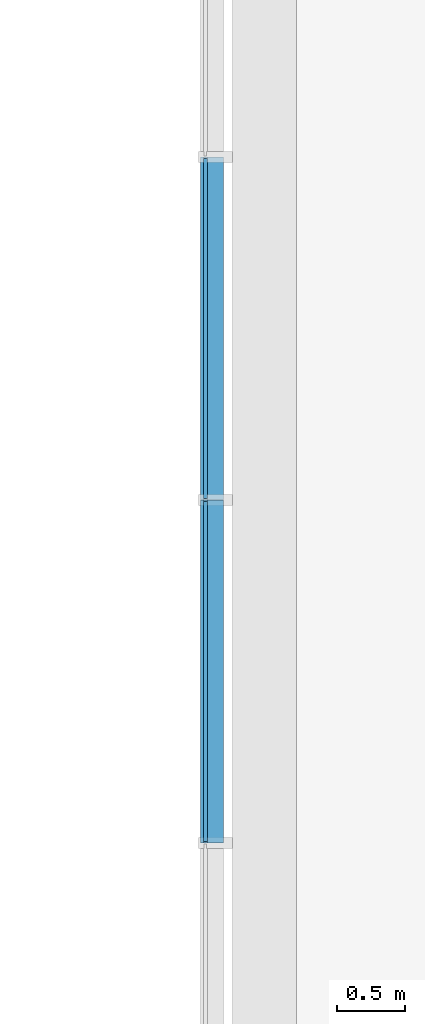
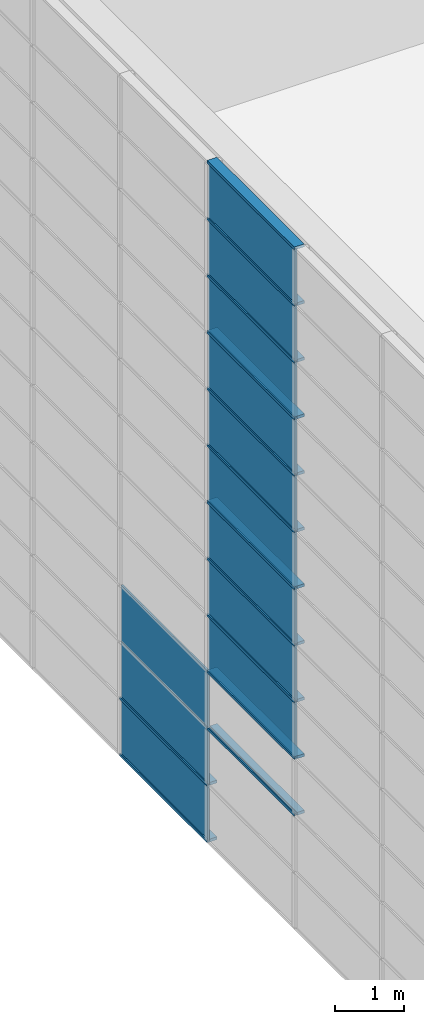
# One storey, part 33 of 105: 28 building element parts, 4 elements without a shape of their own.
"""IFC4 building model written with IfcOpenShell, lengths in millimetres."""

from ifc_helpers import new_model, entity, si_unit, converted_unit, derived_unit, direction, frame, origin_with_axes, place, context, subcontext, project, spatial, triangles, material, element, aggregate, save


model = new_model("IFC4")

# Units and contexts
model_context = context("Model", 3, precision=1e-05, world=origin_with_axes(), true_north=direction((0.0, 1.0)))
body_context = subcontext(model_context, "Body", "Model", "MODEL_VIEW")
ifc_project = project(units=[si_unit("LENGTHUNIT", "METRE", prefix="MILLI"), si_unit("AREAUNIT", "SQUARE_METRE"), si_unit("VOLUMEUNIT", "CUBIC_METRE"), converted_unit("PLANEANGLEUNIT", "DEGREE", entity("IfcLengthMeasure", 0.017453), si_unit("PLANEANGLEUNIT", "RADIAN"), dimensions=[0, 0, 0, 0, 0, 0, 0]), si_unit("SOLIDANGLEUNIT", "STERADIAN"), si_unit("MASSUNIT", "GRAM"), si_unit("TIMEUNIT", "SECOND"), si_unit("THERMODYNAMICTEMPERATUREUNIT", "DEGREE_CELSIUS"), si_unit("LUMINOUSINTENSITYUNIT", "LUMEN"), si_unit("POWERUNIT", "WATT"), derived_unit("THERMALTRANSMITTANCEUNIT", [(si_unit("POWERUNIT", "WATT"), 1), (si_unit("THERMODYNAMICTEMPERATUREUNIT", "KELVIN"), -1), (si_unit("AREAUNIT", "SQUARE_METRE"), -1)])], contexts=[model_context])

# Site, building, storey
site_placement = place(None, origin_with_axes())
site = spatial("IfcSite", under=ifc_project, at=site_placement, Name="Default Site", CompositionType="ELEMENT")
building_placement = place(site_placement, origin_with_axes())
building = spatial("IfcBuilding", under=site, at=building_placement, Name="Default Building", CompositionType="ELEMENT")
storey_placement = place(building_placement, origin_with_axes())
storey = spatial("IfcBuildingStorey", under=building, at=storey_placement, Name="OG - Story", CompositionType="ELEMENT", Elevation=0.0)

# Curtain wall, building element parts
curtain_wall_1_placement = place(storey_placement, origin_with_axes())
curtain_wall_1 = element("IfcCurtainWall", 1, at=curtain_wall_1_placement, inside=storey, Name="Fassade-003", PredefinedType="NOTDEFINED")
ifc_material_1 = material(Name="Normalglas")
building_element_part_1_placement = place(curtain_wall_1_placement, frame((31551.391327, -51326.104944, 0.0), z_axis=(0.0, 0.0, 1.0), x_axis=(1.0, 0.0, 0.0)))
building_element_part_1 = element("IfcBuildingElementPart", 2, at=building_element_part_1_placement, material=ifc_material_1, Name="Normalglas", PredefinedType="NOTDEFINED", context=body_context, shape_type="Tessellation", body=[
    triangles([(15.0, 36621.579, 995.0), (-14.999, 36621.579, 995.0), (-14.999, 34115.263, 995.0), (15.0, 34115.263, 995.0), (15.0, 36621.579, 5.0), (-14.999, 36621.579, 5.0), (-14.999, 34115.263, 5.0), (15.0, 34115.263, 5.0)], [[1, 2, 3], [1, 3, 4], [5, 6, 2], [5, 2, 1], [2, 6, 7], [2, 7, 3], [4, 3, 7], [4, 7, 8], [1, 4, 8], [1, 8, 5], [8, 7, 6], [8, 6, 5]], closed=False),
])
building_element_part_2_placement = place(curtain_wall_1_placement, frame((31551.391327, -51326.104944, 0.0), z_axis=(0.0, 0.0, 1.0), x_axis=(1.0, 0.0, 0.0)))
building_element_part_2 = element("IfcBuildingElementPart", 3, at=building_element_part_2_placement, material=ifc_material_1, Name="Normalglas", PredefinedType="NOTDEFINED", context=body_context, shape_type="Tessellation", body=[
    triangles([(15.0, 36621.579, 1995.0), (-14.999, 36621.579, 1995.0), (-14.999, 34115.263, 1995.0), (15.0, 34115.263, 1995.0), (15.0, 36621.579, 1005.0), (-14.999, 36621.579, 1005.0), (-14.999, 34115.263, 1005.0), (15.0, 34115.263, 1005.0)], [[1, 2, 3], [1, 3, 4], [5, 6, 2], [5, 2, 1], [2, 6, 7], [2, 7, 3], [4, 3, 7], [4, 7, 8], [1, 4, 8], [1, 8, 5], [8, 7, 6], [8, 6, 5]], closed=False),
])
building_element_part_3_placement = place(curtain_wall_1_placement, frame((31551.391327, -51326.104944, 0.0), z_axis=(0.0, 0.0, 1.0), x_axis=(1.0, 0.0, 0.0)))
building_element_part_3 = element("IfcBuildingElementPart", 4, at=building_element_part_3_placement, material=ifc_material_1, Name="Normalglas", PredefinedType="NOTDEFINED", context=body_context, shape_type="Tessellation", body=[
    triangles([(15.0, 36621.579, 2995.0), (-14.999, 36621.579, 2995.0), (-14.999, 34115.263, 2995.0), (15.0, 34115.263, 2995.0), (15.0, 36621.579, 2005.0), (-14.999, 36621.579, 2005.0), (-14.999, 34115.263, 2005.0), (15.0, 34115.263, 2005.0)], [[1, 2, 3], [1, 3, 4], [5, 6, 2], [5, 2, 1], [2, 6, 7], [2, 7, 3], [4, 3, 7], [4, 7, 8], [1, 4, 8], [1, 8, 5], [8, 7, 6], [8, 6, 5]], closed=False),
])
ifc_material_2 = material(Name="Blech")
building_element_part_4_placement = place(curtain_wall_1_placement, frame((31551.391327, -51326.104944, 0.0), z_axis=(0.0, 0.0, 1.0), x_axis=(1.0, 0.0, 0.0)))
building_element_part_4 = element("IfcBuildingElementPart", 5, at=building_element_part_4_placement, material=ifc_material_2, Name="Blech", PredefinedType="NOTDEFINED", context=body_context, shape_type="Tessellation", body=[
    triangles([(15.0, 36631.579, 25.0), (133.0, 36631.579, 25.0), (15.0, 36631.579, 5.0), (133.0, 36631.579, -24.999), (-14.999, 36631.579, 5.0), (-34.999, 36631.579, -24.999), (-34.999, 36631.579, 25.0), (-14.999, 36631.579, 25.0), (15.0, 34105.263, 5.0), (15.0, 34105.263, 25.0), (133.0, 34105.263, 25.0), (133.0, 34105.263, -24.999), (-34.999, 34105.263, -24.999), (-34.999, 34105.263, 25.0), (-14.999, 34105.263, 25.0), (-14.999, 34105.263, 5.0)], [[1, 2, 3], [3, 2, 4], [3, 4, 5], [5, 4, 6], [5, 6, 7], [5, 7, 8], [3, 9, 10], [3, 10, 1], [10, 11, 2], [10, 2, 1], [11, 12, 4], [11, 4, 2], [12, 13, 6], [12, 6, 4], [13, 14, 7], [13, 7, 6], [8, 7, 14], [8, 14, 15], [15, 16, 5], [15, 5, 8], [5, 16, 9], [5, 9, 3], [16, 9, 12], [16, 12, 13], [16, 13, 14], [16, 14, 15], [11, 12, 9], [11, 9, 10]], closed=False),
])
building_element_part_5_placement = place(curtain_wall_1_placement, frame((31551.391327, -51326.104944, 0.0), z_axis=(0.0, 0.0, 1.0), x_axis=(1.0, 0.0, 0.0)))
building_element_part_5 = element("IfcBuildingElementPart", 6, at=building_element_part_5_placement, material=ifc_material_2, Name="Blech", PredefinedType="NOTDEFINED", context=body_context, shape_type="Tessellation", body=[
    triangles([(-14.999, 36631.579, 1025.0), (-34.999, 36631.579, 1025.0), (-14.999, 36631.579, 1005.0), (-14.999, 36631.579, 995.0), (15.0, 36631.579, 1005.0), (133.0, 36631.579, 1025.0), (15.0, 36631.579, 1025.0), (-34.999, 36631.579, 975.0), (-14.999, 36631.579, 975.0), (15.0, 36631.579, 995.0), (15.0, 36631.579, 975.0), (133.0, 36631.579, 975.0), (15.0, 34105.263, 995.0), (-14.999, 34105.263, 995.0), (-14.999, 34105.263, 975.0), (-34.999, 34105.263, 975.0), (-34.999, 34105.263, 1025.0), (-14.999, 34105.263, 1025.0), (-14.999, 34105.263, 1005.0), (15.0, 34105.263, 1005.0), (15.0, 34105.263, 1025.0), (133.0, 34105.263, 1025.0), (133.0, 34105.263, 975.0), (15.0, 34105.263, 975.0)], [[1, 2, 3], [3, 2, 4], [3, 4, 5], [5, 4, 6], [5, 6, 7], [8, 9, 4], [8, 4, 2], [6, 4, 10], [6, 10, 11], [6, 11, 12], [10, 13, 14], [10, 14, 4], [4, 14, 15], [4, 15, 9], [15, 16, 8], [15, 8, 9], [8, 16, 17], [8, 17, 2], [18, 1, 2], [18, 2, 17], [1, 18, 19], [1, 19, 3], [5, 3, 19], [5, 19, 20], [7, 5, 20], [7, 20, 21], [7, 21, 22], [7, 22, 6], [6, 22, 23], [6, 23, 12], [11, 12, 23], [11, 23, 24], [11, 24, 13], [11, 13, 10], [21, 22, 20], [20, 22, 13], [20, 13, 19], [19, 13, 14], [19, 14, 17], [17, 14, 15], [17, 15, 16], [23, 24, 13], [23, 13, 22], [19, 17, 18]], closed=False),
])
building_element_part_6_placement = place(curtain_wall_1_placement, frame((31551.391327, -51326.104944, 0.0), z_axis=(0.0, 0.0, 1.0), x_axis=(1.0, 0.0, 0.0)))
building_element_part_6 = element("IfcBuildingElementPart", 7, at=building_element_part_6_placement, material=ifc_material_2, Name="Blech", PredefinedType="NOTDEFINED", context=body_context, shape_type="Tessellation", body=[
    triangles([(-14.999, 34105.263, 2025.0), (-34.999, 34105.263, 2025.0), (-14.999, 34105.263, 2005.0), (-14.999, 34105.263, 1995.0), (15.0, 34105.263, 2005.0), (133.0, 34105.263, 2025.0), (15.0, 34105.263, 2025.0), (-34.999, 34105.263, 1975.0), (-14.999, 34105.263, 1975.0), (15.0, 34105.263, 1995.0), (15.0, 34105.263, 1975.0), (133.0, 34105.263, 1975.0), (15.0, 31578.947, 1995.0), (-14.999, 31578.947, 1995.0), (-14.999, 31578.947, 1975.0), (-34.999, 31578.947, 1975.0), (-34.999, 31578.947, 2025.0), (-14.999, 31578.947, 2025.0), (-14.999, 31578.947, 2005.0), (15.0, 31578.947, 2005.0), (15.0, 31578.947, 2025.0), (133.0, 31578.947, 2025.0), (133.0, 31578.947, 1975.0), (15.0, 31578.947, 1975.0)], [[1, 2, 3], [3, 2, 4], [3, 4, 5], [5, 4, 6], [5, 6, 7], [8, 9, 4], [8, 4, 2], [6, 4, 10], [6, 10, 11], [6, 11, 12], [10, 13, 14], [10, 14, 4], [4, 14, 15], [4, 15, 9], [15, 16, 8], [15, 8, 9], [8, 16, 17], [8, 17, 2], [18, 1, 2], [18, 2, 17], [1, 18, 19], [1, 19, 3], [5, 3, 19], [5, 19, 20], [7, 5, 20], [7, 20, 21], [7, 21, 22], [7, 22, 6], [6, 22, 23], [6, 23, 12], [11, 12, 23], [11, 23, 24], [11, 24, 13], [11, 13, 10], [21, 22, 20], [20, 22, 13], [20, 13, 19], [19, 13, 14], [19, 14, 17], [17, 14, 15], [17, 15, 16], [23, 24, 13], [23, 13, 22], [19, 17, 18]], closed=False),
])
building_element_part_7_placement = place(curtain_wall_1_placement, frame((31551.391327, -51326.104944, 0.0), z_axis=(0.0, 0.0, 1.0), x_axis=(1.0, 0.0, 0.0)))
building_element_part_7 = element("IfcBuildingElementPart", 8, at=building_element_part_7_placement, material=ifc_material_2, Name="Blech", PredefinedType="NOTDEFINED", context=body_context, shape_type="Tessellation", body=[
    triangles([(-14.999, 34105.263, 2995.0), (15.0, 34105.263, 2995.0), (133.0, 34105.263, 3025.0), (-34.999, 34105.263, 3025.0), (-34.999, 34105.263, 2975.0), (-14.999, 34105.263, 2975.0), (15.0, 34105.263, 2975.0), (133.0, 34105.263, 2975.0), (15.0, 31578.947, 2995.0), (-14.999, 31578.947, 2995.0), (-14.999, 31578.947, 2975.0), (-34.999, 31578.947, 2975.0), (-34.999, 31578.947, 3025.0), (133.0, 31578.947, 3025.0), (133.0, 31578.947, 2975.0), (15.0, 31578.947, 2975.0)], [[1, 2, 3], [1, 3, 4], [1, 4, 5], [1, 5, 6], [7, 8, 3], [7, 3, 2], [1, 2, 9], [1, 9, 10], [11, 6, 1], [11, 1, 10], [6, 11, 12], [6, 12, 5], [13, 4, 5], [13, 5, 12], [14, 3, 4], [14, 4, 13], [15, 8, 3], [15, 3, 14], [16, 7, 8], [16, 8, 15], [2, 7, 16], [2, 16, 9], [10, 9, 14], [10, 14, 13], [10, 13, 12], [10, 12, 11], [16, 15, 14], [16, 14, 9]], closed=False),
])
aggregate(curtain_wall_1, [building_element_part_1, building_element_part_2, building_element_part_3, building_element_part_4, building_element_part_5, building_element_part_6, building_element_part_7])

curtain_wall_2_placement = place(storey_placement, origin_with_axes())
curtain_wall_2 = element("IfcCurtainWall", 9, at=curtain_wall_2_placement, inside=storey, Name="Fassade-003", PredefinedType="NOTDEFINED")
building_element_part_8_placement = place(curtain_wall_2_placement, frame((31551.391327, -51326.104944, 3000.0), z_axis=(0.0, 0.0, 1.0), x_axis=(1.0, 0.0, 0.0)))
building_element_part_8 = element("IfcBuildingElementPart", 10, at=building_element_part_8_placement, material=ifc_material_1, Name="Normalglas", PredefinedType="NOTDEFINED", context=body_context, shape_type="Tessellation", body=[
    triangles([(15.0, 34095.263, 995.0), (-14.999, 34095.263, 995.0), (-14.999, 31588.947, 995.0), (15.0, 31588.947, 995.0), (15.0, 34095.263, 5.0), (-14.999, 34095.263, 5.0), (-14.999, 31588.947, 5.0), (15.0, 31588.947, 5.0)], [[1, 2, 3], [1, 3, 4], [5, 6, 2], [5, 2, 1], [2, 6, 7], [2, 7, 3], [4, 3, 7], [4, 7, 8], [1, 4, 8], [1, 8, 5], [8, 7, 6], [8, 6, 5]], closed=False),
])
building_element_part_9_placement = place(curtain_wall_2_placement, frame((31551.391327, -51326.104944, 3000.0), z_axis=(0.0, 0.0, 1.0), x_axis=(1.0, 0.0, 0.0)))
building_element_part_9 = element("IfcBuildingElementPart", 11, at=building_element_part_9_placement, material=ifc_material_1, Name="Normalglas", PredefinedType="NOTDEFINED", context=body_context, shape_type="Tessellation", body=[
    triangles([(15.0, 34095.263, 1995.0), (-14.999, 34095.263, 1995.0), (-14.999, 31588.947, 1995.0), (15.0, 31588.947, 1995.0), (15.0, 34095.263, 1005.0), (-14.999, 34095.263, 1005.0), (-14.999, 31588.947, 1005.0), (15.0, 31588.947, 1005.0)], [[1, 2, 3], [1, 3, 4], [5, 6, 2], [5, 2, 1], [2, 6, 7], [2, 7, 3], [4, 3, 7], [4, 7, 8], [1, 4, 8], [1, 8, 5], [8, 7, 6], [8, 6, 5]], closed=False),
])
building_element_part_10_placement = place(curtain_wall_2_placement, frame((31551.391327, -51326.104944, 3000.0), z_axis=(0.0, 0.0, 1.0), x_axis=(1.0, 0.0, 0.0)))
building_element_part_10 = element("IfcBuildingElementPart", 12, at=building_element_part_10_placement, material=ifc_material_1, Name="Normalglas", PredefinedType="NOTDEFINED", context=body_context, shape_type="Tessellation", body=[
    triangles([(15.0, 34095.263, 2995.0), (-14.999, 34095.263, 2995.0), (-14.999, 31588.947, 2995.0), (15.0, 31588.947, 2995.0), (15.0, 34095.263, 2005.0), (-14.999, 34095.263, 2005.0), (-14.999, 31588.947, 2005.0), (15.0, 31588.947, 2005.0)], [[1, 2, 3], [1, 3, 4], [5, 6, 2], [5, 2, 1], [2, 6, 7], [2, 7, 3], [4, 3, 7], [4, 7, 8], [1, 4, 8], [1, 8, 5], [8, 7, 6], [8, 6, 5]], closed=False),
])
building_element_part_11_placement = place(curtain_wall_2_placement, frame((31551.391327, -51326.104944, 3000.0), z_axis=(0.0, 0.0, 1.0), x_axis=(1.0, 0.0, 0.0)))
building_element_part_11 = element("IfcBuildingElementPart", 13, at=building_element_part_11_placement, material=ifc_material_2, Name="Blech", PredefinedType="NOTDEFINED", context=body_context, shape_type="Tessellation", body=[
    triangles([(15.0, 34105.263, 25.0), (133.0, 34105.263, 25.0), (15.0, 34105.263, 5.0), (133.0, 34105.263, -24.999), (-14.999, 34105.263, 5.0), (-34.999, 34105.263, -24.999), (-34.999, 34105.263, 25.0), (-14.999, 34105.263, 25.0), (15.0, 31578.947, 5.0), (15.0, 31578.947, 25.0), (133.0, 31578.947, 25.0), (133.0, 31578.947, -24.999), (-34.999, 31578.947, -24.999), (-34.999, 31578.947, 25.0), (-14.999, 31578.947, 25.0), (-14.999, 31578.947, 5.0)], [[1, 2, 3], [3, 2, 4], [3, 4, 5], [5, 4, 6], [5, 6, 7], [5, 7, 8], [3, 9, 10], [3, 10, 1], [10, 11, 2], [10, 2, 1], [11, 12, 4], [11, 4, 2], [12, 13, 6], [12, 6, 4], [13, 14, 7], [13, 7, 6], [8, 7, 14], [8, 14, 15], [15, 16, 5], [15, 5, 8], [5, 16, 9], [5, 9, 3], [16, 9, 12], [16, 12, 13], [16, 13, 14], [16, 14, 15], [11, 12, 9], [11, 9, 10]], closed=False),
])
building_element_part_12_placement = place(curtain_wall_2_placement, frame((31551.391327, -51326.104944, 3000.0), z_axis=(0.0, 0.0, 1.0), x_axis=(1.0, 0.0, 0.0)))
building_element_part_12 = element("IfcBuildingElementPart", 14, at=building_element_part_12_placement, material=ifc_material_2, Name="Blech", PredefinedType="NOTDEFINED", context=body_context, shape_type="Tessellation", body=[
    triangles([(-14.999, 34105.263, 1025.0), (-34.999, 34105.263, 1025.0), (-14.999, 34105.263, 1005.0), (-14.999, 34105.263, 995.0), (15.0, 34105.263, 1005.0), (133.0, 34105.263, 1025.0), (15.0, 34105.263, 1025.0), (-34.999, 34105.263, 975.0), (-14.999, 34105.263, 975.0), (15.0, 34105.263, 995.0), (15.0, 34105.263, 975.0), (133.0, 34105.263, 975.0), (15.0, 31578.947, 995.0), (-14.999, 31578.947, 995.0), (-14.999, 31578.947, 975.0), (-34.999, 31578.947, 975.0), (-34.999, 31578.947, 1025.0), (-14.999, 31578.947, 1025.0), (-14.999, 31578.947, 1005.0), (15.0, 31578.947, 1005.0), (15.0, 31578.947, 1025.0), (133.0, 31578.947, 1025.0), (133.0, 31578.947, 975.0), (15.0, 31578.947, 975.0)], [[1, 2, 3], [3, 2, 4], [3, 4, 5], [5, 4, 6], [5, 6, 7], [8, 9, 4], [8, 4, 2], [6, 4, 10], [6, 10, 11], [6, 11, 12], [10, 13, 14], [10, 14, 4], [4, 14, 15], [4, 15, 9], [15, 16, 8], [15, 8, 9], [8, 16, 17], [8, 17, 2], [18, 1, 2], [18, 2, 17], [1, 18, 19], [1, 19, 3], [5, 3, 19], [5, 19, 20], [7, 5, 20], [7, 20, 21], [7, 21, 22], [7, 22, 6], [6, 22, 23], [6, 23, 12], [11, 12, 23], [11, 23, 24], [11, 24, 13], [11, 13, 10], [21, 22, 20], [20, 22, 13], [20, 13, 19], [19, 13, 14], [19, 14, 17], [17, 14, 15], [17, 15, 16], [23, 24, 13], [23, 13, 22], [19, 17, 18]], closed=False),
])
building_element_part_13_placement = place(curtain_wall_2_placement, frame((31551.391327, -51326.104944, 3000.0), z_axis=(0.0, 0.0, 1.0), x_axis=(1.0, 0.0, 0.0)))
building_element_part_13 = element("IfcBuildingElementPart", 15, at=building_element_part_13_placement, material=ifc_material_2, Name="Blech", PredefinedType="NOTDEFINED", context=body_context, shape_type="Tessellation", body=[
    triangles([(-14.999, 34105.263, 2025.0), (-34.999, 34105.263, 2025.0), (-14.999, 34105.263, 2005.0), (-14.999, 34105.263, 1995.0), (15.0, 34105.263, 2005.0), (133.0, 34105.263, 2025.0), (15.0, 34105.263, 2025.0), (-34.999, 34105.263, 1975.0), (-14.999, 34105.263, 1975.0), (15.0, 34105.263, 1995.0), (15.0, 34105.263, 1975.0), (133.0, 34105.263, 1975.0), (15.0, 31578.947, 1995.0), (-14.999, 31578.947, 1995.0), (-14.999, 31578.947, 1975.0), (-34.999, 31578.947, 1975.0), (-34.999, 31578.947, 2025.0), (-14.999, 31578.947, 2025.0), (-14.999, 31578.947, 2005.0), (15.0, 31578.947, 2005.0), (15.0, 31578.947, 2025.0), (133.0, 31578.947, 2025.0), (133.0, 31578.947, 1975.0), (15.0, 31578.947, 1975.0)], [[1, 2, 3], [3, 2, 4], [3, 4, 5], [5, 4, 6], [5, 6, 7], [8, 9, 4], [8, 4, 2], [6, 4, 10], [6, 10, 11], [6, 11, 12], [10, 13, 14], [10, 14, 4], [4, 14, 15], [4, 15, 9], [15, 16, 8], [15, 8, 9], [8, 16, 17], [8, 17, 2], [18, 1, 2], [18, 2, 17], [1, 18, 19], [1, 19, 3], [5, 3, 19], [5, 19, 20], [7, 5, 20], [7, 20, 21], [7, 21, 22], [7, 22, 6], [6, 22, 23], [6, 23, 12], [11, 12, 23], [11, 23, 24], [11, 24, 13], [11, 13, 10], [21, 22, 20], [20, 22, 13], [20, 13, 19], [19, 13, 14], [19, 14, 17], [17, 14, 15], [17, 15, 16], [23, 24, 13], [23, 13, 22], [19, 17, 18]], closed=False),
])
building_element_part_14_placement = place(curtain_wall_2_placement, frame((31551.391327, -51326.104944, 3000.0), z_axis=(0.0, 0.0, 1.0), x_axis=(1.0, 0.0, 0.0)))
building_element_part_14 = element("IfcBuildingElementPart", 16, at=building_element_part_14_placement, material=ifc_material_2, Name="Blech", PredefinedType="NOTDEFINED", context=body_context, shape_type="Tessellation", body=[
    triangles([(-14.999, 34105.263, 2995.0), (15.0, 34105.263, 2995.0), (133.0, 34105.263, 3025.0), (-34.999, 34105.263, 3025.0), (-34.999, 34105.263, 2975.0), (-14.999, 34105.263, 2975.0), (15.0, 34105.263, 2975.0), (133.0, 34105.263, 2975.0), (15.0, 31578.947, 2995.0), (-14.999, 31578.947, 2995.0), (-14.999, 31578.947, 2975.0), (-34.999, 31578.947, 2975.0), (-34.999, 31578.947, 3025.0), (133.0, 31578.947, 3025.0), (133.0, 31578.947, 2975.0), (15.0, 31578.947, 2975.0)], [[1, 2, 3], [1, 3, 4], [1, 4, 5], [1, 5, 6], [7, 8, 3], [7, 3, 2], [1, 2, 9], [1, 9, 10], [11, 6, 1], [11, 1, 10], [6, 11, 12], [6, 12, 5], [13, 4, 5], [13, 5, 12], [14, 3, 4], [14, 4, 13], [15, 8, 3], [15, 3, 14], [16, 7, 8], [16, 8, 15], [2, 7, 16], [2, 16, 9], [10, 9, 14], [10, 14, 13], [10, 13, 12], [10, 12, 11], [16, 15, 14], [16, 14, 9]], closed=False),
])
aggregate(curtain_wall_2, [building_element_part_8, building_element_part_9, building_element_part_10, building_element_part_11, building_element_part_12, building_element_part_13, building_element_part_14])

curtain_wall_3_placement = place(storey_placement, origin_with_axes())
curtain_wall_3 = element("IfcCurtainWall", 17, at=curtain_wall_3_placement, inside=storey, Name="Fassade-003", PredefinedType="NOTDEFINED")
building_element_part_15_placement = place(curtain_wall_3_placement, frame((31551.391327, -51326.104944, 6000.0), z_axis=(0.0, 0.0, 1.0), x_axis=(1.0, 0.0, 0.0)))
building_element_part_15 = element("IfcBuildingElementPart", 18, at=building_element_part_15_placement, material=ifc_material_1, Name="Normalglas", PredefinedType="NOTDEFINED", context=body_context, shape_type="Tessellation", body=[
    triangles([(15.0, 34095.263, 995.0), (-14.999, 34095.263, 995.0), (-14.999, 31588.947, 995.0), (15.0, 31588.947, 995.0), (15.0, 34095.263, 5.0), (-14.999, 34095.263, 5.0), (-14.999, 31588.947, 5.0), (15.0, 31588.947, 5.0)], [[1, 2, 3], [1, 3, 4], [5, 6, 2], [5, 2, 1], [2, 6, 7], [2, 7, 3], [4, 3, 7], [4, 7, 8], [1, 4, 8], [1, 8, 5], [8, 7, 6], [8, 6, 5]], closed=False),
])
building_element_part_16_placement = place(curtain_wall_3_placement, frame((31551.391327, -51326.104944, 6000.0), z_axis=(0.0, 0.0, 1.0), x_axis=(1.0, 0.0, 0.0)))
building_element_part_16 = element("IfcBuildingElementPart", 19, at=building_element_part_16_placement, material=ifc_material_1, Name="Normalglas", PredefinedType="NOTDEFINED", context=body_context, shape_type="Tessellation", body=[
    triangles([(15.0, 34095.263, 1995.0), (-14.999, 34095.263, 1995.0), (-14.999, 31588.947, 1995.0), (15.0, 31588.947, 1995.0), (15.0, 34095.263, 1005.0), (-14.999, 34095.263, 1005.0), (-14.999, 31588.947, 1005.0), (15.0, 31588.947, 1005.0)], [[1, 2, 3], [1, 3, 4], [5, 6, 2], [5, 2, 1], [2, 6, 7], [2, 7, 3], [4, 3, 7], [4, 7, 8], [1, 4, 8], [1, 8, 5], [8, 7, 6], [8, 6, 5]], closed=False),
])
building_element_part_17_placement = place(curtain_wall_3_placement, frame((31551.391327, -51326.104944, 6000.0), z_axis=(0.0, 0.0, 1.0), x_axis=(1.0, 0.0, 0.0)))
building_element_part_17 = element("IfcBuildingElementPart", 20, at=building_element_part_17_placement, material=ifc_material_1, Name="Normalglas", PredefinedType="NOTDEFINED", context=body_context, shape_type="Tessellation", body=[
    triangles([(15.0, 34095.263, 2995.0), (-14.999, 34095.263, 2995.0), (-14.999, 31588.947, 2995.0), (15.0, 31588.947, 2995.0), (15.0, 34095.263, 2005.0), (-14.999, 34095.263, 2005.0), (-14.999, 31588.947, 2005.0), (15.0, 31588.947, 2005.0)], [[1, 2, 3], [1, 3, 4], [5, 6, 2], [5, 2, 1], [2, 6, 7], [2, 7, 3], [4, 3, 7], [4, 7, 8], [1, 4, 8], [1, 8, 5], [8, 7, 6], [8, 6, 5]], closed=False),
])
building_element_part_18_placement = place(curtain_wall_3_placement, frame((31551.391327, -51326.104944, 6000.0), z_axis=(0.0, 0.0, 1.0), x_axis=(1.0, 0.0, 0.0)))
building_element_part_18 = element("IfcBuildingElementPart", 21, at=building_element_part_18_placement, material=ifc_material_2, Name="Blech", PredefinedType="NOTDEFINED", context=body_context, shape_type="Tessellation", body=[
    triangles([(15.0, 34105.263, 25.0), (133.0, 34105.263, 25.0), (15.0, 34105.263, 5.0), (133.0, 34105.263, -24.999), (-14.999, 34105.263, 5.0), (-34.999, 34105.263, -24.999), (-34.999, 34105.263, 25.0), (-14.999, 34105.263, 25.0), (15.0, 31578.947, 5.0), (15.0, 31578.947, 25.0), (133.0, 31578.947, 25.0), (133.0, 31578.947, -24.999), (-34.999, 31578.947, -24.999), (-34.999, 31578.947, 25.0), (-14.999, 31578.947, 25.0), (-14.999, 31578.947, 5.0)], [[1, 2, 3], [3, 2, 4], [3, 4, 5], [5, 4, 6], [5, 6, 7], [5, 7, 8], [3, 9, 10], [3, 10, 1], [10, 11, 2], [10, 2, 1], [11, 12, 4], [11, 4, 2], [12, 13, 6], [12, 6, 4], [13, 14, 7], [13, 7, 6], [8, 7, 14], [8, 14, 15], [15, 16, 5], [15, 5, 8], [5, 16, 9], [5, 9, 3], [16, 9, 12], [16, 12, 13], [16, 13, 14], [16, 14, 15], [11, 12, 9], [11, 9, 10]], closed=False),
])
building_element_part_19_placement = place(curtain_wall_3_placement, frame((31551.391327, -51326.104944, 6000.0), z_axis=(0.0, 0.0, 1.0), x_axis=(1.0, 0.0, 0.0)))
building_element_part_19 = element("IfcBuildingElementPart", 22, at=building_element_part_19_placement, material=ifc_material_2, Name="Blech", PredefinedType="NOTDEFINED", context=body_context, shape_type="Tessellation", body=[
    triangles([(-14.999, 34105.263, 1025.0), (-34.999, 34105.263, 1025.0), (-14.999, 34105.263, 1005.0), (-14.999, 34105.263, 995.0), (15.0, 34105.263, 1005.0), (133.0, 34105.263, 1025.0), (15.0, 34105.263, 1025.0), (-34.999, 34105.263, 975.0), (-14.999, 34105.263, 975.0), (15.0, 34105.263, 995.0), (15.0, 34105.263, 975.0), (133.0, 34105.263, 975.0), (15.0, 31578.947, 995.0), (-14.999, 31578.947, 995.0), (-14.999, 31578.947, 975.0), (-34.999, 31578.947, 975.0), (-34.999, 31578.947, 1025.0), (-14.999, 31578.947, 1025.0), (-14.999, 31578.947, 1005.0), (15.0, 31578.947, 1005.0), (15.0, 31578.947, 1025.0), (133.0, 31578.947, 1025.0), (133.0, 31578.947, 975.0), (15.0, 31578.947, 975.0)], [[1, 2, 3], [3, 2, 4], [3, 4, 5], [5, 4, 6], [5, 6, 7], [8, 9, 4], [8, 4, 2], [6, 4, 10], [6, 10, 11], [6, 11, 12], [10, 13, 14], [10, 14, 4], [4, 14, 15], [4, 15, 9], [15, 16, 8], [15, 8, 9], [8, 16, 17], [8, 17, 2], [18, 1, 2], [18, 2, 17], [1, 18, 19], [1, 19, 3], [5, 3, 19], [5, 19, 20], [7, 5, 20], [7, 20, 21], [7, 21, 22], [7, 22, 6], [6, 22, 23], [6, 23, 12], [11, 12, 23], [11, 23, 24], [11, 24, 13], [11, 13, 10], [21, 22, 20], [20, 22, 13], [20, 13, 19], [19, 13, 14], [19, 14, 17], [17, 14, 15], [17, 15, 16], [23, 24, 13], [23, 13, 22], [19, 17, 18]], closed=False),
])
building_element_part_20_placement = place(curtain_wall_3_placement, frame((31551.391327, -51326.104944, 6000.0), z_axis=(0.0, 0.0, 1.0), x_axis=(1.0, 0.0, 0.0)))
building_element_part_20 = element("IfcBuildingElementPart", 23, at=building_element_part_20_placement, material=ifc_material_2, Name="Blech", PredefinedType="NOTDEFINED", context=body_context, shape_type="Tessellation", body=[
    triangles([(-14.999, 34105.263, 2025.0), (-34.999, 34105.263, 2025.0), (-14.999, 34105.263, 2005.0), (-14.999, 34105.263, 1995.0), (15.0, 34105.263, 2005.0), (133.0, 34105.263, 2025.0), (15.0, 34105.263, 2025.0), (-34.999, 34105.263, 1975.0), (-14.999, 34105.263, 1975.0), (15.0, 34105.263, 1995.0), (15.0, 34105.263, 1975.0), (133.0, 34105.263, 1975.0), (15.0, 31578.947, 1995.0), (-14.999, 31578.947, 1995.0), (-14.999, 31578.947, 1975.0), (-34.999, 31578.947, 1975.0), (-34.999, 31578.947, 2025.0), (-14.999, 31578.947, 2025.0), (-14.999, 31578.947, 2005.0), (15.0, 31578.947, 2005.0), (15.0, 31578.947, 2025.0), (133.0, 31578.947, 2025.0), (133.0, 31578.947, 1975.0), (15.0, 31578.947, 1975.0)], [[1, 2, 3], [3, 2, 4], [3, 4, 5], [5, 4, 6], [5, 6, 7], [8, 9, 4], [8, 4, 2], [6, 4, 10], [6, 10, 11], [6, 11, 12], [10, 13, 14], [10, 14, 4], [4, 14, 15], [4, 15, 9], [15, 16, 8], [15, 8, 9], [8, 16, 17], [8, 17, 2], [18, 1, 2], [18, 2, 17], [1, 18, 19], [1, 19, 3], [5, 3, 19], [5, 19, 20], [7, 5, 20], [7, 20, 21], [7, 21, 22], [7, 22, 6], [6, 22, 23], [6, 23, 12], [11, 12, 23], [11, 23, 24], [11, 24, 13], [11, 13, 10], [21, 22, 20], [20, 22, 13], [20, 13, 19], [19, 13, 14], [19, 14, 17], [17, 14, 15], [17, 15, 16], [23, 24, 13], [23, 13, 22], [19, 17, 18]], closed=False),
])
building_element_part_21_placement = place(curtain_wall_3_placement, frame((31551.391327, -51326.104944, 6000.0), z_axis=(0.0, 0.0, 1.0), x_axis=(1.0, 0.0, 0.0)))
building_element_part_21 = element("IfcBuildingElementPart", 24, at=building_element_part_21_placement, material=ifc_material_2, Name="Blech", PredefinedType="NOTDEFINED", context=body_context, shape_type="Tessellation", body=[
    triangles([(-14.999, 34105.263, 2995.0), (15.0, 34105.263, 2995.0), (133.0, 34105.263, 3025.0), (-34.999, 34105.263, 3025.0), (-34.999, 34105.263, 2975.0), (-14.999, 34105.263, 2975.0), (15.0, 34105.263, 2975.0), (133.0, 34105.263, 2975.0), (15.0, 31578.947, 2995.0), (-14.999, 31578.947, 2995.0), (-14.999, 31578.947, 2975.0), (-34.999, 31578.947, 2975.0), (-34.999, 31578.947, 3025.0), (133.0, 31578.947, 3025.0), (133.0, 31578.947, 2975.0), (15.0, 31578.947, 2975.0)], [[1, 2, 3], [1, 3, 4], [1, 4, 5], [1, 5, 6], [7, 8, 3], [7, 3, 2], [1, 2, 9], [1, 9, 10], [11, 6, 1], [11, 1, 10], [6, 11, 12], [6, 12, 5], [13, 4, 5], [13, 5, 12], [14, 3, 4], [14, 4, 13], [15, 8, 3], [15, 3, 14], [16, 7, 8], [16, 8, 15], [2, 7, 16], [2, 16, 9], [10, 9, 14], [10, 14, 13], [10, 13, 12], [10, 12, 11], [16, 15, 14], [16, 14, 9]], closed=False),
])
aggregate(curtain_wall_3, [building_element_part_15, building_element_part_16, building_element_part_17, building_element_part_18, building_element_part_19, building_element_part_20, building_element_part_21])

curtain_wall_4_placement = place(storey_placement, origin_with_axes())
curtain_wall_4 = element("IfcCurtainWall", 25, at=curtain_wall_4_placement, inside=storey, Name="Fassade-003", PredefinedType="NOTDEFINED")
building_element_part_22_placement = place(curtain_wall_4_placement, frame((31551.391327, -51326.104944, 9000.0), z_axis=(0.0, 0.0, 1.0), x_axis=(1.0, 0.0, 0.0)))
building_element_part_22 = element("IfcBuildingElementPart", 26, at=building_element_part_22_placement, material=ifc_material_1, Name="Normalglas", PredefinedType="NOTDEFINED", context=body_context, shape_type="Tessellation", body=[
    triangles([(15.0, 34095.263, 995.0), (-14.999, 34095.263, 995.0), (-14.999, 31588.947, 995.0), (15.0, 31588.947, 995.0), (15.0, 34095.263, 5.0), (-14.999, 34095.263, 5.0), (-14.999, 31588.947, 5.0), (15.0, 31588.947, 5.0)], [[1, 2, 3], [1, 3, 4], [5, 6, 2], [5, 2, 1], [2, 6, 7], [2, 7, 3], [4, 3, 7], [4, 7, 8], [1, 4, 8], [1, 8, 5], [8, 7, 6], [8, 6, 5]], closed=False),
])
building_element_part_23_placement = place(curtain_wall_4_placement, frame((31551.391327, -51326.104944, 9000.0), z_axis=(0.0, 0.0, 1.0), x_axis=(1.0, 0.0, 0.0)))
building_element_part_23 = element("IfcBuildingElementPart", 27, at=building_element_part_23_placement, material=ifc_material_1, Name="Normalglas", PredefinedType="NOTDEFINED", context=body_context, shape_type="Tessellation", body=[
    triangles([(15.0, 34095.263, 1995.0), (-14.999, 34095.263, 1995.0), (-14.999, 31588.947, 1995.0), (15.0, 31588.947, 1995.0), (15.0, 34095.263, 1005.0), (-14.999, 34095.263, 1005.0), (-14.999, 31588.947, 1005.0), (15.0, 31588.947, 1005.0)], [[1, 2, 3], [1, 3, 4], [5, 6, 2], [5, 2, 1], [2, 6, 7], [2, 7, 3], [4, 3, 7], [4, 7, 8], [1, 4, 8], [1, 8, 5], [8, 7, 6], [8, 6, 5]], closed=False),
])
building_element_part_24_placement = place(curtain_wall_4_placement, frame((31551.391327, -51326.104944, 9000.0), z_axis=(0.0, 0.0, 1.0), x_axis=(1.0, 0.0, 0.0)))
building_element_part_24 = element("IfcBuildingElementPart", 28, at=building_element_part_24_placement, material=ifc_material_1, Name="Normalglas", PredefinedType="NOTDEFINED", context=body_context, shape_type="Tessellation", body=[
    triangles([(15.0, 34095.263, 2995.0), (-14.999, 34095.263, 2995.0), (-14.999, 31588.947, 2995.0), (15.0, 31588.947, 2995.0), (15.0, 34095.263, 2005.0), (-14.999, 34095.263, 2005.0), (-14.999, 31588.947, 2005.0), (15.0, 31588.947, 2005.0)], [[1, 2, 3], [1, 3, 4], [5, 6, 2], [5, 2, 1], [2, 6, 7], [2, 7, 3], [4, 3, 7], [4, 7, 8], [1, 4, 8], [1, 8, 5], [8, 7, 6], [8, 6, 5]], closed=False),
])
building_element_part_25_placement = place(curtain_wall_4_placement, frame((31551.391327, -51326.104944, 9000.0), z_axis=(0.0, 0.0, 1.0), x_axis=(1.0, 0.0, 0.0)))
building_element_part_25 = element("IfcBuildingElementPart", 29, at=building_element_part_25_placement, material=ifc_material_2, Name="Blech", PredefinedType="NOTDEFINED", context=body_context, shape_type="Tessellation", body=[
    triangles([(15.0, 34105.263, 25.0), (133.0, 34105.263, 25.0), (15.0, 34105.263, 5.0), (133.0, 34105.263, -24.999), (-14.999, 34105.263, 5.0), (-34.999, 34105.263, -24.999), (-34.999, 34105.263, 25.0), (-14.999, 34105.263, 25.0), (15.0, 31578.947, 5.0), (15.0, 31578.947, 25.0), (133.0, 31578.947, 25.0), (133.0, 31578.947, -24.999), (-34.999, 31578.947, -24.999), (-34.999, 31578.947, 25.0), (-14.999, 31578.947, 25.0), (-14.999, 31578.947, 5.0)], [[1, 2, 3], [3, 2, 4], [3, 4, 5], [5, 4, 6], [5, 6, 7], [5, 7, 8], [3, 9, 10], [3, 10, 1], [10, 11, 2], [10, 2, 1], [11, 12, 4], [11, 4, 2], [12, 13, 6], [12, 6, 4], [13, 14, 7], [13, 7, 6], [8, 7, 14], [8, 14, 15], [15, 16, 5], [15, 5, 8], [5, 16, 9], [5, 9, 3], [16, 9, 12], [16, 12, 13], [16, 13, 14], [16, 14, 15], [11, 12, 9], [11, 9, 10]], closed=False),
])
building_element_part_26_placement = place(curtain_wall_4_placement, frame((31551.391327, -51326.104944, 9000.0), z_axis=(0.0, 0.0, 1.0), x_axis=(1.0, 0.0, 0.0)))
building_element_part_26 = element("IfcBuildingElementPart", 30, at=building_element_part_26_placement, material=ifc_material_2, Name="Blech", PredefinedType="NOTDEFINED", context=body_context, shape_type="Tessellation", body=[
    triangles([(-14.999, 34105.263, 1025.0), (-34.999, 34105.263, 1025.0), (-14.999, 34105.263, 1005.0), (-14.999, 34105.263, 995.0), (15.0, 34105.263, 1005.0), (133.0, 34105.263, 1025.0), (15.0, 34105.263, 1025.0), (-34.999, 34105.263, 975.0), (-14.999, 34105.263, 975.0), (15.0, 34105.263, 995.0), (15.0, 34105.263, 975.0), (133.0, 34105.263, 975.0), (15.0, 31578.947, 995.0), (-14.999, 31578.947, 995.0), (-14.999, 31578.947, 975.0), (-34.999, 31578.947, 975.0), (-34.999, 31578.947, 1025.0), (-14.999, 31578.947, 1025.0), (-14.999, 31578.947, 1005.0), (15.0, 31578.947, 1005.0), (15.0, 31578.947, 1025.0), (133.0, 31578.947, 1025.0), (133.0, 31578.947, 975.0), (15.0, 31578.947, 975.0)], [[1, 2, 3], [3, 2, 4], [3, 4, 5], [5, 4, 6], [5, 6, 7], [8, 9, 4], [8, 4, 2], [6, 4, 10], [6, 10, 11], [6, 11, 12], [10, 13, 14], [10, 14, 4], [4, 14, 15], [4, 15, 9], [15, 16, 8], [15, 8, 9], [8, 16, 17], [8, 17, 2], [18, 1, 2], [18, 2, 17], [1, 18, 19], [1, 19, 3], [5, 3, 19], [5, 19, 20], [7, 5, 20], [7, 20, 21], [7, 21, 22], [7, 22, 6], [6, 22, 23], [6, 23, 12], [11, 12, 23], [11, 23, 24], [11, 24, 13], [11, 13, 10], [21, 22, 20], [20, 22, 13], [20, 13, 19], [19, 13, 14], [19, 14, 17], [17, 14, 15], [17, 15, 16], [23, 24, 13], [23, 13, 22], [19, 17, 18]], closed=False),
])
building_element_part_27_placement = place(curtain_wall_4_placement, frame((31551.391327, -51326.104944, 9000.0), z_axis=(0.0, 0.0, 1.0), x_axis=(1.0, 0.0, 0.0)))
building_element_part_27 = element("IfcBuildingElementPart", 31, at=building_element_part_27_placement, material=ifc_material_2, Name="Blech", PredefinedType="NOTDEFINED", context=body_context, shape_type="Tessellation", body=[
    triangles([(-14.999, 34105.263, 2025.0), (-34.999, 34105.263, 2025.0), (-14.999, 34105.263, 2005.0), (-14.999, 34105.263, 1995.0), (15.0, 34105.263, 2005.0), (133.0, 34105.263, 2025.0), (15.0, 34105.263, 2025.0), (-34.999, 34105.263, 1975.0), (-14.999, 34105.263, 1975.0), (15.0, 34105.263, 1995.0), (15.0, 34105.263, 1975.0), (133.0, 34105.263, 1975.0), (15.0, 31578.947, 1995.0), (-14.999, 31578.947, 1995.0), (-14.999, 31578.947, 1975.0), (-34.999, 31578.947, 1975.0), (-34.999, 31578.947, 2025.0), (-14.999, 31578.947, 2025.0), (-14.999, 31578.947, 2005.0), (15.0, 31578.947, 2005.0), (15.0, 31578.947, 2025.0), (133.0, 31578.947, 2025.0), (133.0, 31578.947, 1975.0), (15.0, 31578.947, 1975.0)], [[1, 2, 3], [3, 2, 4], [3, 4, 5], [5, 4, 6], [5, 6, 7], [8, 9, 4], [8, 4, 2], [6, 4, 10], [6, 10, 11], [6, 11, 12], [10, 13, 14], [10, 14, 4], [4, 14, 15], [4, 15, 9], [15, 16, 8], [15, 8, 9], [8, 16, 17], [8, 17, 2], [18, 1, 2], [18, 2, 17], [1, 18, 19], [1, 19, 3], [5, 3, 19], [5, 19, 20], [7, 5, 20], [7, 20, 21], [7, 21, 22], [7, 22, 6], [6, 22, 23], [6, 23, 12], [11, 12, 23], [11, 23, 24], [11, 24, 13], [11, 13, 10], [21, 22, 20], [20, 22, 13], [20, 13, 19], [19, 13, 14], [19, 14, 17], [17, 14, 15], [17, 15, 16], [23, 24, 13], [23, 13, 22], [19, 17, 18]], closed=False),
])
building_element_part_28_placement = place(curtain_wall_4_placement, frame((31551.391327, -51326.104944, 9000.0), z_axis=(0.0, 0.0, 1.0), x_axis=(1.0, 0.0, 0.0)))
building_element_part_28 = element("IfcBuildingElementPart", 32, at=building_element_part_28_placement, material=ifc_material_2, Name="Blech", PredefinedType="NOTDEFINED", context=body_context, shape_type="Tessellation", body=[
    triangles([(-14.999, 34105.263, 2995.0), (15.0, 34105.263, 2995.0), (133.0, 34105.263, 3025.0), (-34.999, 34105.263, 3025.0), (-34.999, 34105.263, 2975.0), (-14.999, 34105.263, 2975.0), (15.0, 34105.263, 2975.0), (133.0, 34105.263, 2975.0), (15.0, 31578.947, 2995.0), (-14.999, 31578.947, 2995.0), (-14.999, 31578.947, 2975.0), (-34.999, 31578.947, 2975.0), (-34.999, 31578.947, 3025.0), (133.0, 31578.947, 3025.0), (133.0, 31578.947, 2975.0), (15.0, 31578.947, 2975.0)], [[1, 2, 3], [1, 3, 4], [1, 4, 5], [1, 5, 6], [7, 8, 3], [7, 3, 2], [1, 2, 9], [1, 9, 10], [11, 6, 1], [11, 1, 10], [6, 11, 12], [6, 12, 5], [13, 4, 5], [13, 5, 12], [14, 3, 4], [14, 4, 13], [15, 8, 3], [15, 3, 14], [16, 7, 8], [16, 8, 15], [2, 7, 16], [2, 16, 9], [10, 9, 14], [10, 14, 13], [10, 13, 12], [10, 12, 11], [16, 15, 14], [16, 14, 9]], closed=False),
])
aggregate(curtain_wall_4, [building_element_part_22, building_element_part_23, building_element_part_24, building_element_part_25, building_element_part_26, building_element_part_27, building_element_part_28])

save(model, "model.ifc")
